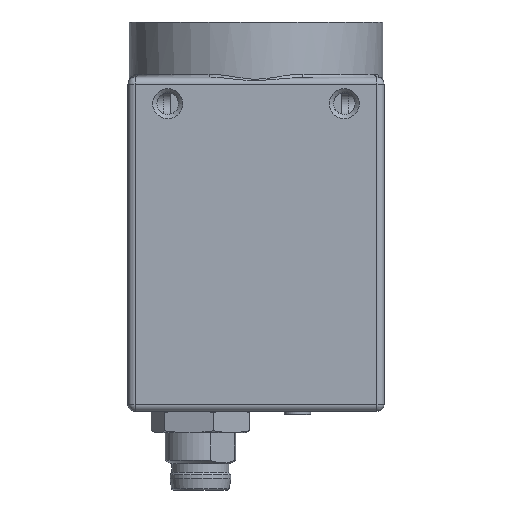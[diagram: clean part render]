
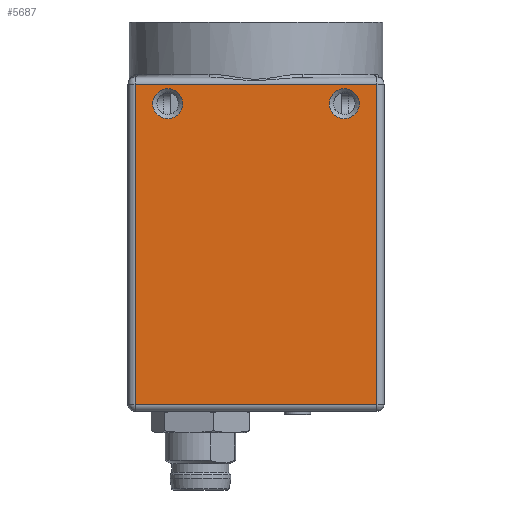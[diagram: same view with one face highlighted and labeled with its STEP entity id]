
A CAD part, left-side view. The second image highlights one B-rep face of the part: STEP entity #5687.
In plain terms, the highlighted planar face has unit normal (-1, 0, 0).
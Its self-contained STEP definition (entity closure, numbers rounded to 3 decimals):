
#5687 = ADVANCED_FACE( '', ( #12604, #12605, #12606 ), #12607, .T. );
#12604 = FACE_BOUND( '', #22076, .T. );
#12605 = FACE_BOUND( '', #22077, .T. );
#12606 = FACE_OUTER_BOUND( '', #22078, .T. );
#12607 = PLANE( '', #22079 );
#22076 = EDGE_LOOP( '', ( #35807 ) );
#22077 = EDGE_LOOP( '', ( #35808 ) );
#22078 = EDGE_LOOP( '', ( #35809, #35810, #35811, #35812 ) );
#22079 = AXIS2_PLACEMENT_3D( '', #35813, #35814, #35815 );
#35807 = ORIENTED_EDGE( '', *, *, #40316, .T. );
#35808 = ORIENTED_EDGE( '', *, *, #44014, .T. );
#35809 = ORIENTED_EDGE( '', *, *, #42890, .T. );
#35810 = ORIENTED_EDGE( '', *, *, #42994, .T. );
#35811 = ORIENTED_EDGE( '', *, *, #43779, .T. );
#35812 = ORIENTED_EDGE( '', *, *, #43508, .T. );
#35813 = CARTESIAN_POINT( '', ( -14.5, -14.5, 12.2 ) );
#35814 = DIRECTION( '', ( -1., 0., 0. ) );
#35815 = DIRECTION( '', ( 0., 0., 1. ) );
#40316 = EDGE_CURVE( '', #46024, #46024, #46025, .T. );
#42890 = EDGE_CURVE( '', #50006, #50007, #50008, .T. );
#42994 = EDGE_CURVE( '', #50007, #47898, #50149, .F. );
#43508 = EDGE_CURVE( '', #49807, #50006, #50846, .T. );
#43779 = EDGE_CURVE( '', #47898, #49807, #51190, .T. );
#44014 = EDGE_CURVE( '', #51523, #51523, #51524, .T. );
#46024 = VERTEX_POINT( '', #54068 );
#46025 = CIRCLE( '', #54069, 1.7 );
#47898 = VERTEX_POINT( '', #57033 );
#49807 = VERTEX_POINT( '', #59897 );
#50006 = VERTEX_POINT( '', #60271 );
#50007 = VERTEX_POINT( '', #60272 );
#50008 = LINE( '', #60273, #60274 );
#50149 = LINE( '', #60491, #60492 );
#50846 = LINE( '', #61484, #61485 );
#51190 = LINE( '', #61944, #61945 );
#51523 = VERTEX_POINT( '', #62383 );
#51524 = CIRCLE( '', #62384, 1.7 );
#54068 = CARTESIAN_POINT( '', ( -14.5, -8.3, 9.2 ) );
#54069 = AXIS2_PLACEMENT_3D( '', #64664, #64665, #64666 );
#57033 = CARTESIAN_POINT( '', ( -14.5, -13.7, 11.4 ) );
#59897 = CARTESIAN_POINT( '', ( -14.5, 13.7, 11.4 ) );
#60271 = CARTESIAN_POINT( '', ( -14.5, 13.7, -24.85 ) );
#60272 = CARTESIAN_POINT( '', ( -14.5, -13.7, -24.85 ) );
#60273 = CARTESIAN_POINT( '', ( -14.5, -14.5, -24.85 ) );
#60274 = VECTOR( '', #67815, 1000. );
#60491 = CARTESIAN_POINT( '', ( -14.5, -13.7, 12.2 ) );
#60492 = VECTOR( '', #67923, 1000. );
#61484 = CARTESIAN_POINT( '', ( -14.5, 13.7, 12.2 ) );
#61485 = VECTOR( '', #68441, 1000. );
#61944 = CARTESIAN_POINT( '', ( -14.5, 14.5, 11.4 ) );
#61945 = VECTOR( '', #68695, 1000. );
#62383 = CARTESIAN_POINT( '', ( -14.5, 11.7, 9.2 ) );
#62384 = AXIS2_PLACEMENT_3D( '', #69046, #69047, #69048 );
#64664 = CARTESIAN_POINT( '', ( -14.5, -10., 9.2 ) );
#64665 = DIRECTION( '', ( 1., 0., 0. ) );
#64666 = DIRECTION( '', ( 0., 1., 0. ) );
#67815 = DIRECTION( '', ( 0., -1., 0. ) );
#67923 = DIRECTION( '', ( 0., 0., -1. ) );
#68441 = DIRECTION( '', ( 0., 0., -1. ) );
#68695 = DIRECTION( '', ( 0., 1., 0. ) );
#69046 = CARTESIAN_POINT( '', ( -14.5, 10., 9.2 ) );
#69047 = DIRECTION( '', ( 1., 0., 0. ) );
#69048 = DIRECTION( '', ( 0., 1., 0. ) );
